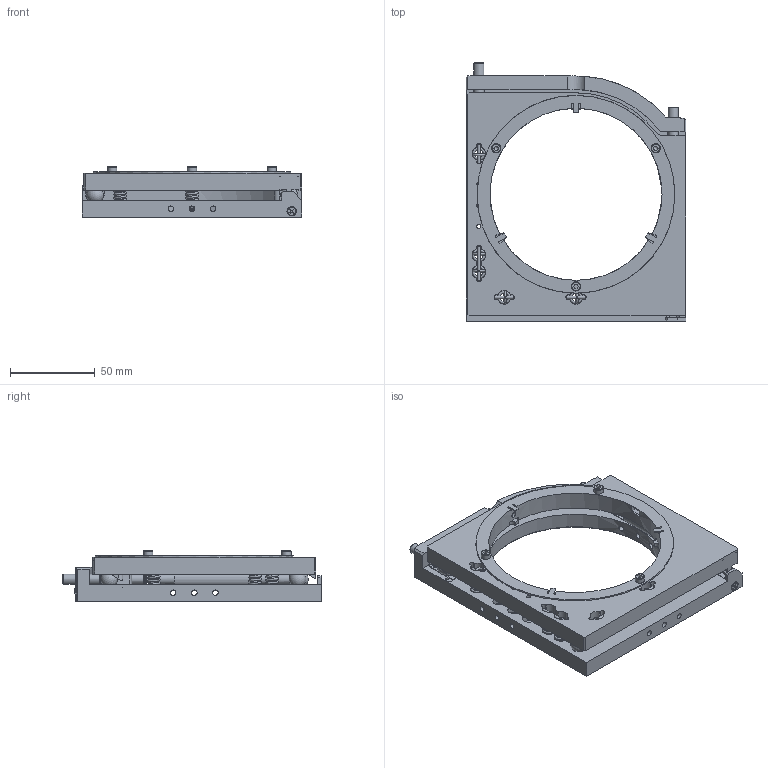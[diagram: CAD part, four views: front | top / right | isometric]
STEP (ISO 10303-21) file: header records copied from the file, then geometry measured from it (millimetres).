
FILE_DESCRIPTION(/* description */ (''),/* implementation_level */ '2;1');
FILE_NAME(/* name */ '5KVDOM-4.stp',/* time_stamp */ '2024-03-07T11:09:54+02:00',/* author */ ('dsgn36'),/* organization */ (''),/* preprocessor_version */ 'ST-DEVELOPER v20',/* originating_system */ 'Autodesk Inventor 2024',/* authorisation */ '');
FILE_SCHEMA (('AUTOMOTIVE_DESIGN { 1 0 10303 214 3 1 1 }'));
Length unit declared in the file: millimetre
Products named in the file (1): 5KVDOM-4 SB_Simplify_1
Bounding box: 130 x 152.74 x 29.8 mm (x, y, z)
Volume: 175904.9 mm3; surface area: 70042.7 mm2
Topology: 13 solids, 13 shells, 624 faces, 1707 edges, 1099 vertices
Faces by surface type: plane 319, cylinder 196, cone 65, torus 19, bspline 15, sphere 10
Full cylindrical faces by diameter (mm): 1.2 x10, 1.5 x1, 2 x1, 2.013 x1, 2.459 x16, 2.5 x1, 2.9 x1, 3 x5, 3.242 x11, 4 x5, 4.76 x2, 5.5 x4, 6 x6, 6.1 x1, 7 x6, 8 x10, 101.8 x1, 106 x1, 117 x1
Entity records: 26607 total; most frequent: CARTESIAN_POINT 9688, DIRECTION 3436, ORIENTED_EDGE 3370, EDGE_CURVE 1685, AXIS2_PLACEMENT_3D 1257, VERTEX_POINT 1128, LINE 922, VECTOR 922
